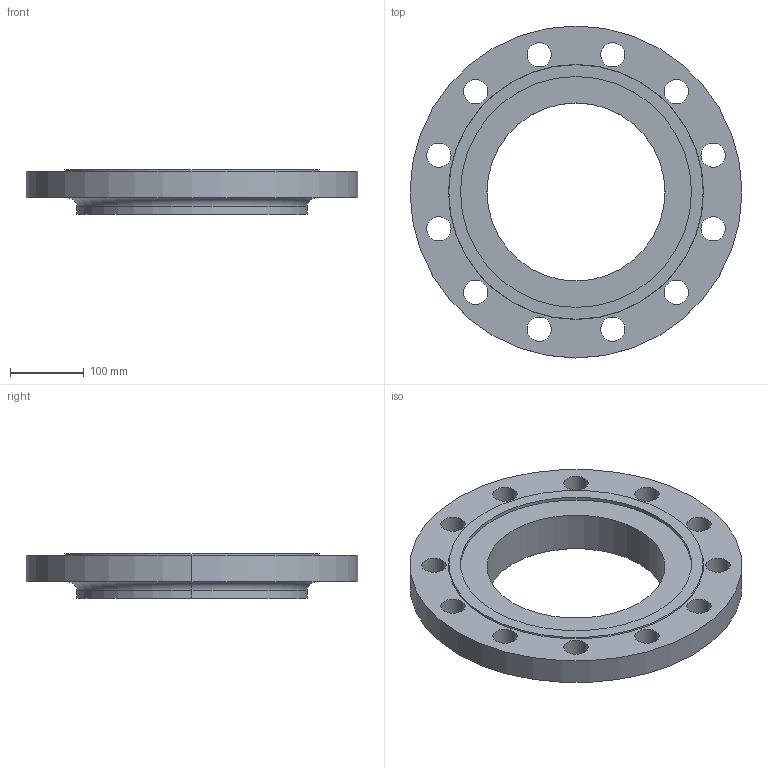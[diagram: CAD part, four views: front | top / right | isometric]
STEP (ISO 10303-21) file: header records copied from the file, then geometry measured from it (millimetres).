
FILE_DESCRIPTION (( 'STEP AP214' ), '1' );
FILE_NAME ('PN40 DN250 Type 13 - Type F Face.STEP', '2019-01-05T15:59:18', ( '' ), ( '' ), 'SwSTEP 2.0', 'SolidWorks 2019', '' );
FILE_SCHEMA (( 'AUTOMOTIVE_DESIGN' ));
Length unit declared in the file: millimetre
Products named in the file (1): PN40 DN250 Type 13 - Type F Face
Bounding box: 450 x 450 x 60 mm (x, y, z)
Volume: 4371077.3 mm3; surface area: 366653.4 mm2
Topology: 1 solids, 1 shells, 41 faces, 106 edges, 70 vertices
Faces by surface type: cylinder 32, plane 5, torus 2, cone 2
Entity records: 1382 total; most frequent: DIRECTION 262, CARTESIAN_POINT 218, ORIENTED_EDGE 212, AXIS2_PLACEMENT_3D 114, EDGE_CURVE 106, CIRCLE 72, VERTEX_POINT 70, EDGE_LOOP 70
